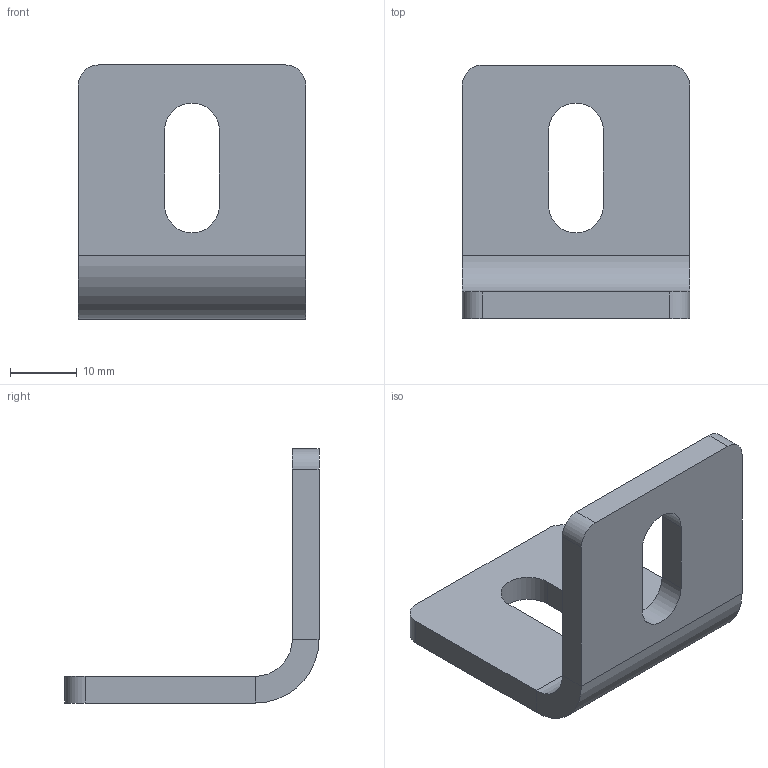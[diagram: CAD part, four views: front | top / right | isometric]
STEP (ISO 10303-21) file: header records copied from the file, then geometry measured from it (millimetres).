
FILE_DESCRIPTION (( 'STEP AP203' ), '1' );
FILE_NAME ('8201s.STEP', '2016-03-25T13:15:09', ( '' ), ( '' ), 'SwSTEP 2.0', 'SolidWorks 2014', '' );
FILE_SCHEMA (( 'CONFIG_CONTROL_DESIGN' ));
Length unit declared in the file: millimetre
Products named in the file (1): 8201s
Bounding box: 34 x 38 x 38 mm (x, y, z)
Volume: 8162.6 mm3; surface area: 5268 mm2
Topology: 1 solids, 1 shells, 27 faces, 67 edges, 42 vertices
Faces by surface type: plane 16, cylinder 11
Entity records: 884 total; most frequent: DIRECTION 145, CARTESIAN_POINT 137, ORIENTED_EDGE 134, EDGE_CURVE 67, AXIS2_PLACEMENT_3D 50, LINE 45, VECTOR 45, VERTEX_POINT 42
